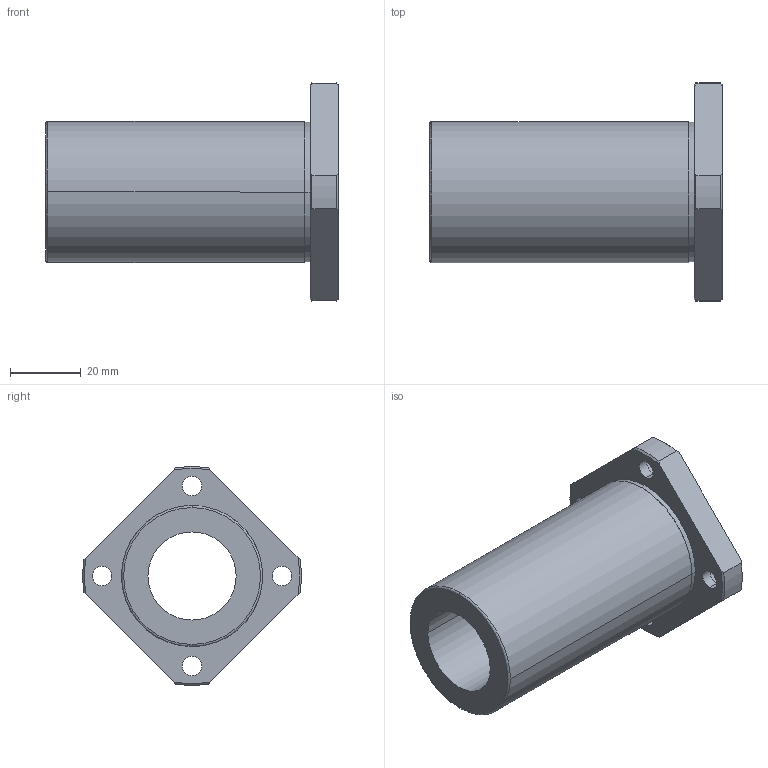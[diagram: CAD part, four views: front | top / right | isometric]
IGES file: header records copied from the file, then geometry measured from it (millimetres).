
Start section: 3D InterOp IGES (Version 21 0 1), Spatial Corp. Copyright (c) 1999-2007.
Global section: file name: NFES-25VM.igs; native system: Spatial Corp.; preprocessor: 3D InterOp GENERIC/IGES 3.0; author: Noname; organization: Noname; date: 20220204.160337; units: millimetre
Bounding box: 83 x 61.96 x 61.92 mm (x, y, z)
Surface area: 21868.2 mm2 (no closed solid volume)
Topology: 0 solids, 0 shells, 51 faces, 254 edges, 254 vertices
Faces by surface type: revolution 39, extrusion 12
